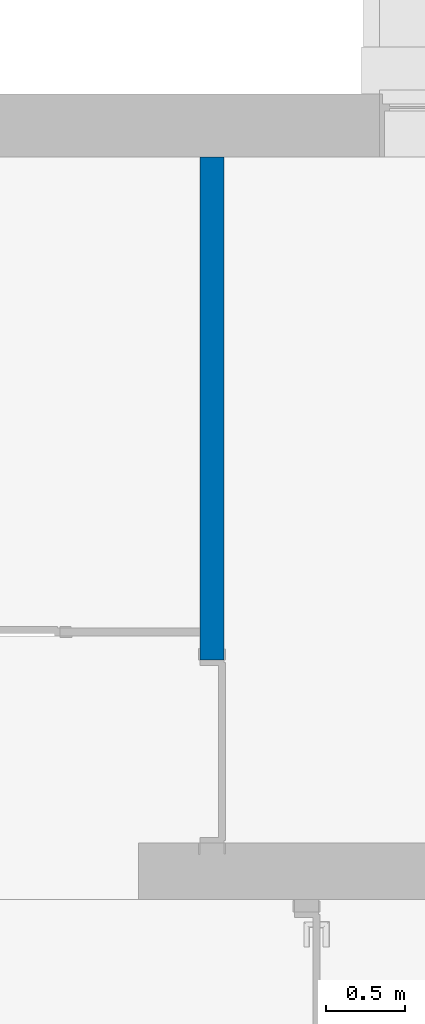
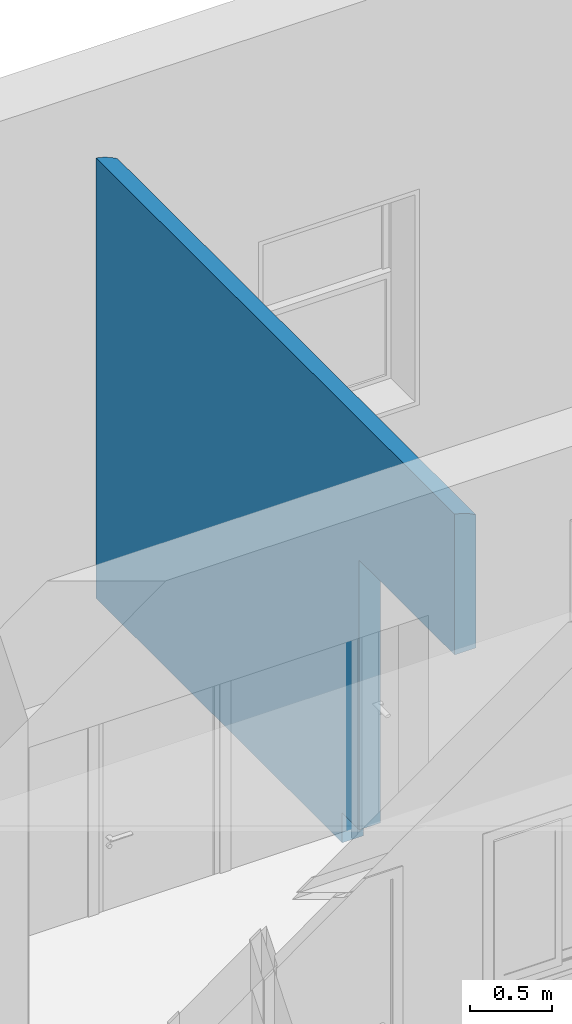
# One storey, part 142 of 153: 1 wall, 1 opening.
"""IFC4 building model written with IfcOpenShell, lengths in metres."""

from ifc_helpers import new_model, entity, si_unit, converted_unit, derived_unit, direction, frame, origin, place, context, subcontext, project, spatial, indexed_curve, outline, extrude, polygons, material, type_object, element, save


model = new_model("IFC4")

# Units and contexts
model_context = context("Model", 3, precision=1e-05, world=origin(), true_north=direction((6.123031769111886e-17, 1.0)))
body_context = subcontext(model_context, "Body", "Model", "MODEL_VIEW")
ifc_project = project(units=[si_unit("LENGTHUNIT", "METRE"), si_unit("AREAUNIT", "SQUARE_METRE"), si_unit("VOLUMEUNIT", "CUBIC_METRE"), converted_unit("PLANEANGLEUNIT", "DEGREE", entity("IfcRatioMeasure", 0.017453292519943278), si_unit("PLANEANGLEUNIT", "RADIAN"), dimensions=[0, 0, 0, 0, 0, 0, 0]), si_unit("MASSUNIT", "GRAM", prefix="KILO"), derived_unit("MASSDENSITYUNIT", [(si_unit("MASSUNIT", "GRAM", prefix="KILO"), 1), (si_unit("LENGTHUNIT", "METRE"), -3)]), derived_unit("MOMENTOFINERTIAUNIT", [(si_unit("LENGTHUNIT", "METRE"), 4)]), si_unit("TIMEUNIT", "SECOND"), si_unit("FREQUENCYUNIT", "HERTZ"), si_unit("THERMODYNAMICTEMPERATUREUNIT", "DEGREE_CELSIUS"), derived_unit("THERMALTRANSMITTANCEUNIT", [(si_unit("MASSUNIT", "GRAM", prefix="KILO"), 1), (si_unit("THERMODYNAMICTEMPERATUREUNIT", "KELVIN"), -1), (si_unit("TIMEUNIT", "SECOND"), -3)]), derived_unit("VOLUMETRICFLOWRATEUNIT", [(si_unit("LENGTHUNIT", "METRE"), 3), (si_unit("TIMEUNIT", "SECOND"), -1)]), derived_unit("MASSFLOWRATEUNIT", [(si_unit("MASSUNIT", "GRAM", prefix="KILO"), 1), (si_unit("TIMEUNIT", "SECOND"), -1)]), derived_unit("ROTATIONALFREQUENCYUNIT", [(si_unit("TIMEUNIT", "SECOND"), -1)]), si_unit("ELECTRICCURRENTUNIT", "AMPERE"), si_unit("ELECTRICVOLTAGEUNIT", "VOLT"), si_unit("POWERUNIT", "WATT"), si_unit("FORCEUNIT", "NEWTON", prefix="KILO"), si_unit("ILLUMINANCEUNIT", "LUX"), si_unit("LUMINOUSFLUXUNIT", "LUMEN"), si_unit("LUMINOUSINTENSITYUNIT", "CANDELA"), derived_unit("USERDEFINED", [(si_unit("MASSUNIT", "GRAM", prefix="KILO"), -1), (si_unit("LENGTHUNIT", "METRE"), -2), (si_unit("TIMEUNIT", "SECOND"), 3), (si_unit("LUMINOUSFLUXUNIT", "LUMEN"), 1)]), derived_unit("SOUNDPOWERUNIT", [(si_unit("MASSUNIT", "GRAM", prefix="KILO"), 1), (si_unit("LENGTHUNIT", "METRE"), 2), (si_unit("TIMEUNIT", "SECOND"), -3)]), derived_unit("SOUNDPRESSUREUNIT", [(si_unit("MASSUNIT", "GRAM", prefix="KILO"), 1), (si_unit("LENGTHUNIT", "METRE"), -1), (si_unit("TIMEUNIT", "SECOND"), -2)]), derived_unit("LINEARVELOCITYUNIT", [(si_unit("LENGTHUNIT", "METRE"), 1), (si_unit("TIMEUNIT", "SECOND"), -1)]), si_unit("PRESSUREUNIT", "PASCAL"), derived_unit("USERDEFINED", [(si_unit("LENGTHUNIT", "METRE"), -2), (si_unit("MASSUNIT", "GRAM", prefix="KILO"), 1), (si_unit("TIMEUNIT", "SECOND"), -2)]), derived_unit("LINEARFORCEUNIT", [(si_unit("MASSUNIT", "GRAM", prefix="KILO"), 1), (si_unit("LENGTHUNIT", "METRE"), 1), (si_unit("TIMEUNIT", "SECOND"), -2), (si_unit("LENGTHUNIT", "METRE"), -1)]), derived_unit("PLANARFORCEUNIT", [(si_unit("MASSUNIT", "GRAM", prefix="KILO"), 1), (si_unit("LENGTHUNIT", "METRE"), 1), (si_unit("TIMEUNIT", "SECOND"), -2), (si_unit("LENGTHUNIT", "METRE"), -2)])], contexts=[model_context])

# Site, building, storey
site_placement = place(None, origin())
site = spatial("IfcSite", under=ifc_project, at=site_placement, Name="Superficie", CompositionType="ELEMENT")
building_placement = place(site_placement, origin())
building = spatial("IfcBuilding", under=site, at=building_placement, CompositionType="ELEMENT")
storey_placement = place(building_placement, frame((0.0, 0.0, 3.5999999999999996)))
storey = spatial("IfcBuildingStorey", under=building, at=storey_placement, Name="Nivel 1", CompositionType="ELEMENT", Elevation=3.5999999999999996)

# Wall, opening
ifc_material = material(Name="Muro por defecto", Category="Varios")
wall_type = type_object("IfcWallType", Name="Muro básico:Por defecto - 15 cm 2", PredefinedType="STANDARD")
wall_placement = place(storey_placement, frame((1.1860019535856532, 10.730829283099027, 0.4000000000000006), z_axis=(0.0, 0.0, 1.0), x_axis=(0.0, 1.0, 0.0)))
wall = element("IfcWall", 1, at=wall_placement, inside=storey, type_object=wall_type, material=ifc_material, Name="Muro básico:Por defecto - 15 cm 2", ObjectType="Muro básico:Por defecto - 15 cm 2", PredefinedType="NOTDEFINED", context=body_context, shape_type="Tessellation", body=[
    polygons([(4.3549999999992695, -0.07500000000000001, -5.414335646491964e-16), (4.3549999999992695, -0.07500000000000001, 3.207571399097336), (0.0, -0.07500000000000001, 3.2075713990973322), (0.0, -0.07500000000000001, 2.2199999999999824), (1.1599999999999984, -0.07499999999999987, 2.2199999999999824), (1.1599999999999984, -0.07499999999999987, 0.21999999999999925), (1.3649999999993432, -0.07500000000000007, 0.21999999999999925), (1.3649999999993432, -0.07500000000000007, -5.414335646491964e-16), (4.3549999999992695, 0.07500000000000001, 3.2641525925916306), (4.3549999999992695, 0.07500000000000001, -5.414335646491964e-16), (1.3649999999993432, 0.07500000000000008, -5.414335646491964e-16), (1.3649999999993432, 0.07500000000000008, 0.21999999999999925), (1.1599999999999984, 0.075, 0.21999999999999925), (1.1599999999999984, 0.075, 2.2199999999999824), (0.0, 0.07500000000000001, 2.2199999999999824), (0.0, 0.07500000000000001, 3.2641525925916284), (0.0, -0.027492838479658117, 3.232645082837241), (0.0, 0.022768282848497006, 3.2516039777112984), (4.3549999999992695, 0.02276828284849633, 3.2516039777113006), (4.3549999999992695, -0.027492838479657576, 3.232645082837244), (1.4578326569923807, -0.07500000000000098, 3.2075713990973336), (2.1775137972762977, 0.07499999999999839, 3.2641525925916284), (1.088743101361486, 0.07499999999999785, 3.264152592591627), (2.906427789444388, -0.07500000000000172, 3.2075713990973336), (3.266256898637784, 0.07499999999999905, 3.2641525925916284), (0.724309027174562, -0.07500000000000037, 3.2075713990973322), (3.630713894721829, -0.07500000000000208, 3.2075713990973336), (0.7242742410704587, 0.07499999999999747, 3.264152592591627), (0.9065215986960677, -0.0026584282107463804, 3.2429096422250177), (3.6306981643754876, 0.07499999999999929, 3.2641525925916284), (3.4484784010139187, -0.0026584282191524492, 3.242909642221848), (1.633128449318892, 0.07499999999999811, 3.2641525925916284), (2.182141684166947, -0.07500000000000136, 3.2075713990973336), (1.9053124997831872, -0.002803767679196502, 3.242854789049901), (2.721899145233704, 0.07499999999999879, 3.2641525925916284), (2.5455430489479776, -0.008323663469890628, 3.240726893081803)], [[[5, 6, 7, 8, 1, 2, 27, 24, 33, 21, 26, 3, 4]], [[10, 11, 12, 13, 14, 15, 16, 28, 23, 32, 22, 35, 25, 30, 9]], [[16, 15, 4, 3, 17, 18]], [[6, 5, 14, 13]], [[11, 8, 7, 12]], [[4, 15, 14, 5]], [[7, 6, 13, 12]], [[8, 11, 10, 1]], [[19, 20, 2, 1, 10, 9]], [[2, 20, 27]], [[17, 3, 26]], [[27, 31, 24]], [[21, 29, 26]], [[29, 28, 18]], [[30, 25, 35, 31]], [[23, 28, 29, 32]], [[18, 17, 29]], [[26, 29, 17]], [[29, 34, 32]], [[21, 34, 29]], [[30, 31, 19]], [[36, 22, 34]], [[34, 22, 32]], [[28, 16, 18]], [[19, 9, 30]], [[20, 19, 31]], [[20, 31, 27]], [[24, 36, 33]], [[33, 36, 34]], [[21, 33, 34]], [[35, 22, 36]], [[35, 36, 31]], [[31, 36, 24]]], closed=True),
])
opening_placement = place(wall_placement, frame((1.1599999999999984, 0.07499999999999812, 0.11999999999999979)))
element("IfcOpeningElement", 2, at=opening_placement, cuts=wall, Name="Puerta de 1 hoja:116 x 210 cm 2:1", PredefinedType="OPENING", context=body_context, shape_type="SweptSolid", body=[
    extrude(outline(indexed_curve([(0.0, 1.1599999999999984), (0.0, -1.4726577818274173e-32), (2.099999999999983, -1.4726577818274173e-32), (2.099999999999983, 1.1599999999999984), (0.0, 1.1599999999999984)], self_intersect=False)), frame((0.0, 0.0, 0.0), z_axis=(0.0, -1.0, 0.0), x_axis=(0.0, 0.0, 1.0)), (0.0, 0.0, 1.0), 0.14999999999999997),
])

save(model, "model.ifc")
